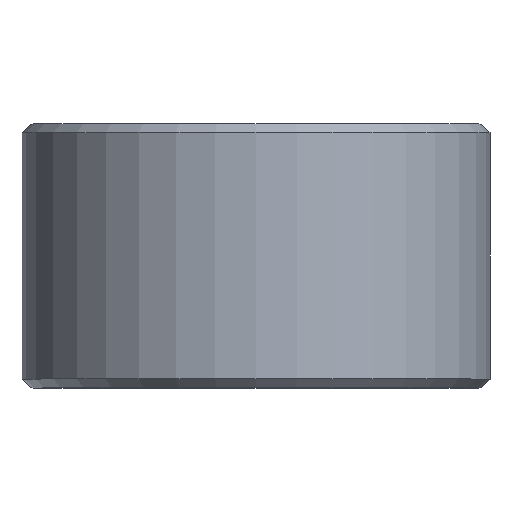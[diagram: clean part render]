
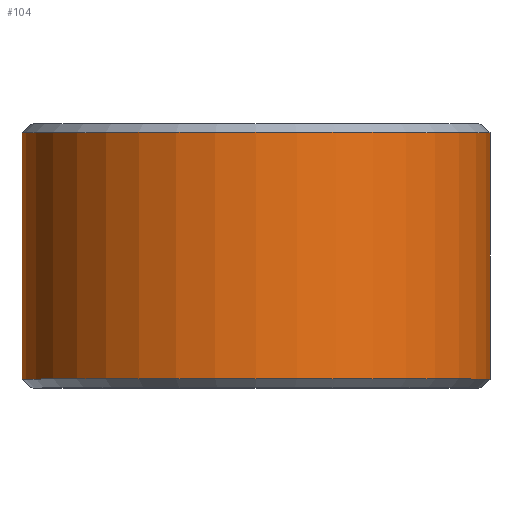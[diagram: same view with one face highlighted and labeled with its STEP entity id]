
A CAD part, top view. The second image highlights one B-rep face of the part: STEP entity #104.
In plain terms, the highlighted cylindrical face has radius 13.3 mm (diameter 26.6 mm), a full revolution.
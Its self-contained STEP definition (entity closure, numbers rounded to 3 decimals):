
#34=ORIENTED_EDGE('',*,*,#47,.T.);
#35=ORIENTED_EDGE('',*,*,#46,.F.);
#46=EDGE_CURVE('',#54,#54,#62,.T.);
#47=EDGE_CURVE('',#55,#55,#63,.T.);
#54=VERTEX_POINT('',#185);
#55=VERTEX_POINT('',#188);
#62=CIRCLE('',#129,13.3);
#63=CIRCLE('',#131,13.3);
#74=EDGE_LOOP('',(#34));
#75=EDGE_LOOP('',(#35));
#90=FACE_BOUND('',#74,.T.);
#91=FACE_BOUND('',#75,.T.);
#99=CYLINDRICAL_SURFACE('',#130,13.3);
#104=ADVANCED_FACE('',(#90,#91),#99,.T.);
#129=AXIS2_PLACEMENT_3D('',#184,#155,#156);
#130=AXIS2_PLACEMENT_3D('',#186,#157,#158);
#131=AXIS2_PLACEMENT_3D('',#187,#159,#160);
#155=DIRECTION('',(0.,-1.,0.));
#156=DIRECTION('',(0.,0.,-1.));
#157=DIRECTION('',(0.,-1.,0.));
#158=DIRECTION('',(0.,0.,-1.));
#159=DIRECTION('',(0.,-1.,0.));
#160=DIRECTION('',(0.,0.,-1.));
#184=CARTESIAN_POINT('',(0.,0.5,0.));
#185=CARTESIAN_POINT('',(0.,0.5,-13.3));
#186=CARTESIAN_POINT('',(0.,0.,0.));
#187=CARTESIAN_POINT('',(0.,14.5,0.));
#188=CARTESIAN_POINT('',(0.,14.5,-13.3));
